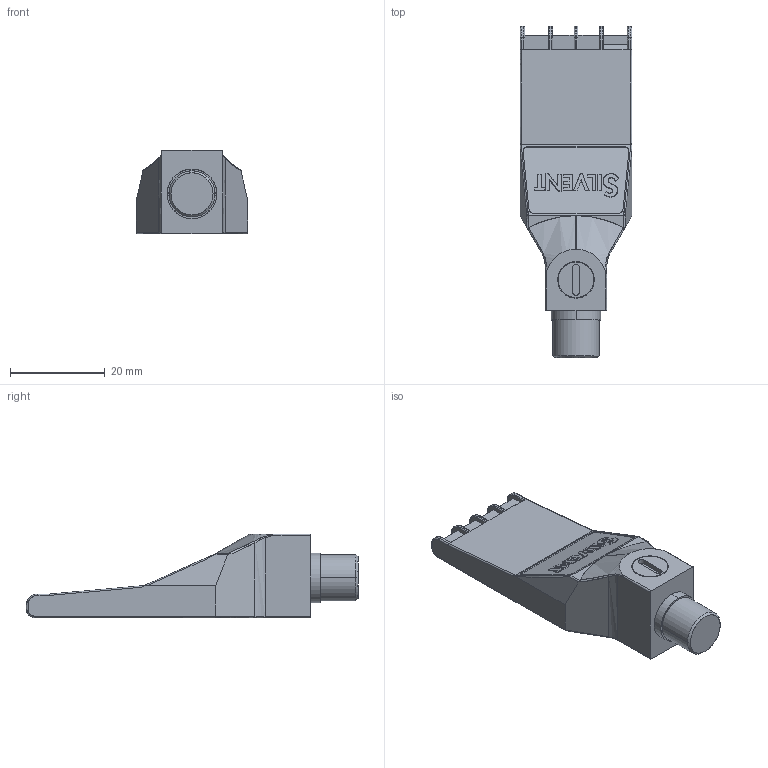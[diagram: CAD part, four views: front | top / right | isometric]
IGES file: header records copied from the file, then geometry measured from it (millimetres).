
Start section: SolidWorks IGES FILE using analytic representation for surfaces
Global section: file name: G:\Silvent\Ritningar\Övrigt\IGES\Silvent 971F.IGS; native system: SolidWorks 2003 by SolidWorks Corporation; preprocessor: Version 5.3; author: Ulf; date: 030923.152618; units: millimetre
Bounding box: 23.6 x 70 x 17.6 mm (x, y, z)
Surface area: 4480.7 mm2 (no closed solid volume)
Topology: 0 solids, 0 shells, 286 faces, 2234 edges, 2234 vertices
Faces by surface type: bspline 150, revolution 136
